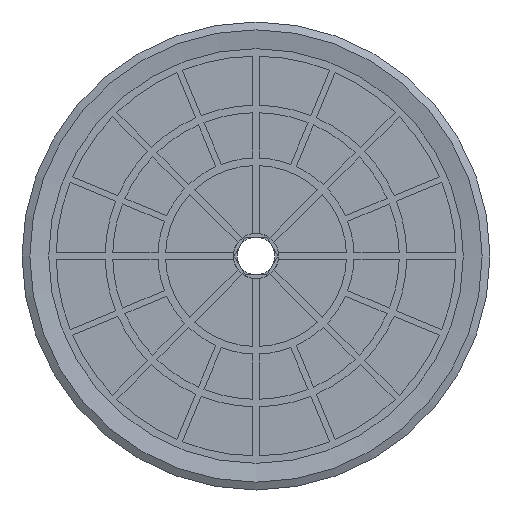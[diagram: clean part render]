
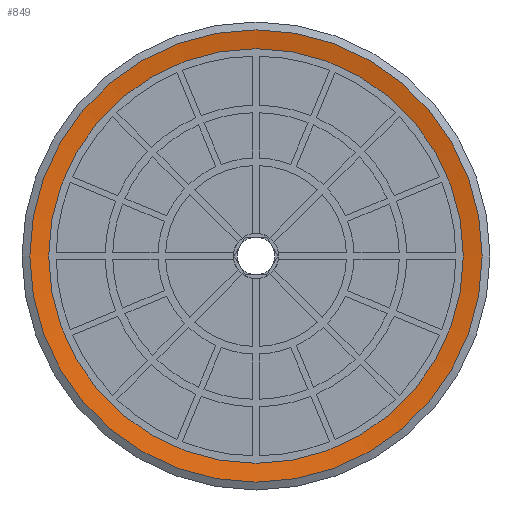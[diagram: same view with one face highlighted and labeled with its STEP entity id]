
A CAD part, front view. The second image highlights one B-rep face of the part: STEP entity #849.
In plain terms, the highlighted conical face has half-angle 80 degrees and reference radius 15 mm.
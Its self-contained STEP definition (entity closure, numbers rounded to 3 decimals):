
#849=ADVANCED_FACE('',(#1669,#1670),#1671,.F.);
#1669=FACE_BOUND('',#2746,.T.);
#1670=FACE_OUTER_BOUND('',#2747,.T.);
#1671=CONICAL_SURFACE('',#2748,15.0,1.396);
#2746=EDGE_LOOP('',(#5291));
#2747=EDGE_LOOP('',(#5292));
#2748=AXIS2_PLACEMENT_3D('',#5293,#5294,#5295);
#5291=ORIENTED_EDGE('',*,*,#6139,.T.);
#5292=ORIENTED_EDGE('',*,*,#6289,.F.);
#5293=CARTESIAN_POINT('',(0.0,0.,0.));
#5294=DIRECTION('',(0.0,0.,-1.0));
#5295=DIRECTION('',(0.0,1.0,0.));
#6139=EDGE_CURVE('',#7394,#7394,#7395,.T.);
#6289=EDGE_CURVE('',#7618,#7618,#7619,.T.);
#7394=VERTEX_POINT('',#9669);
#7395=CIRCLE('',#9670,13.75);
#7618=VERTEX_POINT('',#10005);
#7619=CIRCLE('',#10006,15.0);
#9669=CARTESIAN_POINT('',(0.0,-13.75,0.22));
#9670=AXIS2_PLACEMENT_3D('',#11122,#11123,#11124);
#10005=CARTESIAN_POINT('',(0.0,-15.0,0.));
#10006=AXIS2_PLACEMENT_3D('',#11348,#11349,#11350);
#11122=CARTESIAN_POINT('',(0.0,0.,0.22));
#11123=DIRECTION('',(0.0,0.,1.0));
#11124=DIRECTION('',(0.0,-1.0,0.));
#11348=CARTESIAN_POINT('',(0.0,0.,0.));
#11349=DIRECTION('',(0.0,0.,1.0));
#11350=DIRECTION('',(0.0,-1.0,0.));
